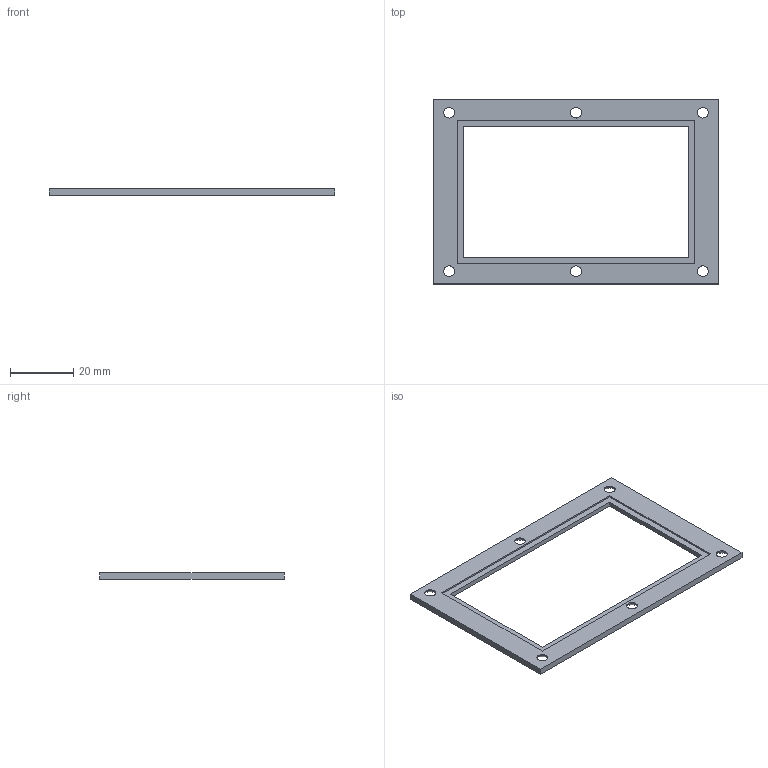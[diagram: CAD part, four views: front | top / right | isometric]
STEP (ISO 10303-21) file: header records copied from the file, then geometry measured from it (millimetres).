
FILE_DESCRIPTION(/* description */ (''),/* implementation_level */ '2;1');
FILE_NAME(/* name */ '',/* time_stamp */ '2026-05-08T17:21:43+08:00',/* author */ ('32769'),/* organization */ (''),/* preprocessor_version */ 'ST-DEVELOPER v20',/* originating_system */ 'Autodesk Inventor 2025',/* authorisation */ '');
FILE_SCHEMA (('AUTOMOTIVE_DESIGN { 1 0 10303 214 3 1 1 }'));
Length unit declared in the file: millimetre
Products named in the file (1): 1521249-8-0032 ¶þ¼¶´°Æ¬Ñ
¹°åÕýÃæ
Bounding box: 90 x 58 x 2 mm (x, y, z)
Volume: 4169.3 mm3; surface area: 5645.1 mm2
Topology: 1 solids, 1 shells, 27 faces, 66 edges, 42 vertices
Faces by surface type: plane 15, cone 6, cylinder 6
Full cylindrical faces by diameter (mm): 3.4 x6
Entity records: 861 total; most frequent: DIRECTION 140, CARTESIAN_POINT 136, ORIENTED_EDGE 132, EDGE_CURVE 66, LINE 48, VECTOR 48, AXIS2_PLACEMENT_3D 46, EDGE_LOOP 42
